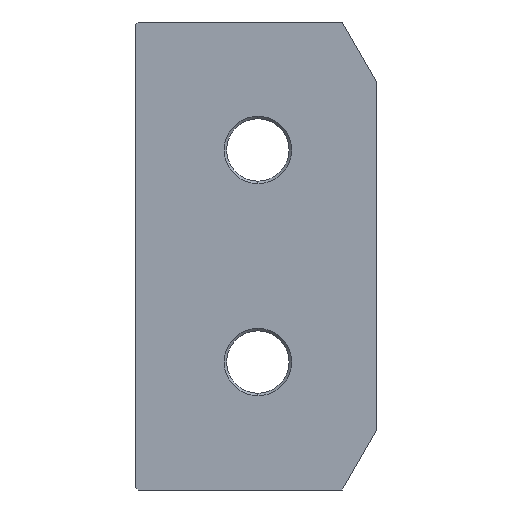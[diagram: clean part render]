
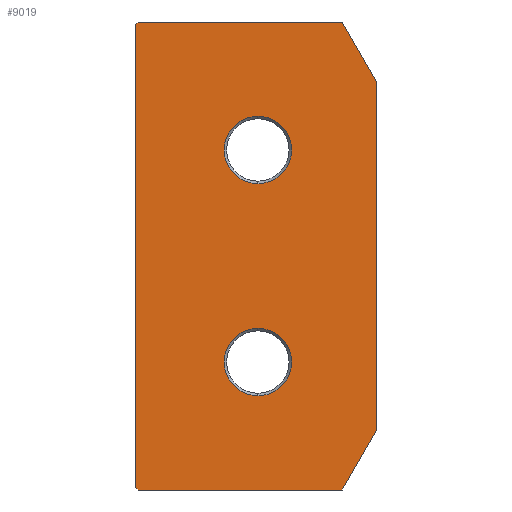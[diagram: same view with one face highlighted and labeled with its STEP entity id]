
A CAD part, front view. The second image highlights one B-rep face of the part: STEP entity #9019.
In plain terms, the highlighted planar face has unit normal (0, -1, 0).
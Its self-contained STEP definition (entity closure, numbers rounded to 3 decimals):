
#185 = PLANE ( 'NONE',  #4678 ) ;
#207 = CARTESIAN_POINT ( 'NONE',  ( 0., 0., 37.5 ) ) ;
#243 = ORIENTED_EDGE ( 'NONE', *, *, #3386, .T. ) ;
#257 = ORIENTED_EDGE ( 'NONE', *, *, #7228, .T. ) ;
#446 = CARTESIAN_POINT ( 'NONE',  ( 19.6, 0., 22.4 ) ) ;
#458 = EDGE_CURVE ( 'NONE', #2231, #8779, #3526, .T. ) ;
#645 = VERTEX_POINT ( 'NONE', #7879 ) ;
#813 = VERTEX_POINT ( 'NONE', #5045 ) ;
#910 = DIRECTION ( 'NONE',  ( 0.707, 0., -0.707 ) ) ;
#919 = ORIENTED_EDGE ( 'NONE', *, *, #8239, .T. ) ;
#947 = EDGE_CURVE ( 'NONE', #6887, #645, #7584, .T. ) ;
#1007 = ORIENTED_EDGE ( 'NONE', *, *, #1945, .T. ) ;
#1108 = DIRECTION ( 'NONE',  ( 1., 0., 0. ) ) ;
#1169 = EDGE_LOOP ( 'NONE', ( #1345, #243 ) ) ;
#1345 = ORIENTED_EDGE ( 'NONE', *, *, #2753, .T. ) ;
#1385 = CARTESIAN_POINT ( 'NONE',  ( 19.6, 0., 17. ) ) ;
#1527 = LINE ( 'NONE', #3033, #5630 ) ;
#1567 = DIRECTION ( 'NONE',  ( 0., 1., 0. ) ) ;
#1576 = DIRECTION ( 'NONE',  ( 0., 0., 1. ) ) ;
#1655 = FACE_BOUND ( 'NONE', #2107, .T. ) ;
#1792 = EDGE_LOOP ( 'NONE', ( #3913, #8311, #919, #8913, #6712, #5421, #8343, #2806 ) ) ;
#1897 = DIRECTION ( 'NONE',  ( 0., 0., 1. ) ) ;
#1906 = CARTESIAN_POINT ( 'NONE',  ( -37.3, 0., -0.2 ) ) ;
#1929 = VECTOR ( 'NONE', #6195, 1000. ) ;
#1945 = EDGE_CURVE ( 'NONE', #5951, #2197, #9002, .T. ) ;
#2107 = EDGE_LOOP ( 'NONE', ( #1007, #257 ) ) ;
#2197 = VERTEX_POINT ( 'NONE', #446 ) ;
#2231 = VERTEX_POINT ( 'NONE', #7113 ) ;
#2280 = VERTEX_POINT ( 'NONE', #5106 ) ;
#2728 = DIRECTION ( 'NONE',  ( 0., 1., 0. ) ) ;
#2749 = AXIS2_PLACEMENT_3D ( 'NONE', #1385, #1567, #9649 ) ;
#2751 = CARTESIAN_POINT ( 'NONE',  ( 0.4, 0., 37.5 ) ) ;
#2753 = EDGE_CURVE ( 'NONE', #813, #2280, #9545, .T. ) ;
#2806 = ORIENTED_EDGE ( 'NONE', *, *, #5617, .T. ) ;
#2993 = CARTESIAN_POINT ( 'NONE',  ( 19.6, 0., -17. ) ) ;
#3033 = CARTESIAN_POINT ( 'NONE',  ( 38.6, 0., -37.5 ) ) ;
#3035 = LINE ( 'NONE', #5496, #1929 ) ;
#3133 = LINE ( 'NONE', #1906, #3748 ) ;
#3166 = FACE_OUTER_BOUND ( 'NONE', #1792, .T. ) ;
#3386 = EDGE_CURVE ( 'NONE', #2280, #813, #4422, .T. ) ;
#3513 = CARTESIAN_POINT ( 'NONE',  ( 19.6, 0., 17. ) ) ;
#3526 = LINE ( 'NONE', #6537, #4526 ) ;
#3580 = VERTEX_POINT ( 'NONE', #6749 ) ;
#3630 = AXIS2_PLACEMENT_3D ( 'NONE', #6368, #9326, #6998 ) ;
#3748 = VECTOR ( 'NONE', #7660, 1000. ) ;
#3913 = ORIENTED_EDGE ( 'NONE', *, *, #8549, .F. ) ;
#4378 = VERTEX_POINT ( 'NONE', #2751 ) ;
#4422 = CIRCLE ( 'NONE', #3630, 5.4 ) ;
#4510 = DIRECTION ( 'NONE',  ( 0., 0., 1. ) ) ;
#4526 = VECTOR ( 'NONE', #9101, 1000. ) ;
#4678 = AXIS2_PLACEMENT_3D ( 'NONE', #6185, #5662, #8639 ) ;
#4700 = FACE_BOUND ( 'NONE', #1169, .T. ) ;
#4978 = VERTEX_POINT ( 'NONE', #8950 ) ;
#5045 = CARTESIAN_POINT ( 'NONE',  ( 19.6, 0., -22.4 ) ) ;
#5066 = VECTOR ( 'NONE', #910, 1000. ) ;
#5106 = CARTESIAN_POINT ( 'NONE',  ( 19.6, 0., -11.6 ) ) ;
#5191 = AXIS2_PLACEMENT_3D ( 'NONE', #2993, #9067, #1576 ) ;
#5206 = CIRCLE ( 'NONE', #6773, 5.4 ) ;
#5421 = ORIENTED_EDGE ( 'NONE', *, *, #458, .T. ) ;
#5496 = CARTESIAN_POINT ( 'NONE',  ( 0., 0., -37.5 ) ) ;
#5617 = EDGE_CURVE ( 'NONE', #4378, #9195, #3133, .T. ) ;
#5630 = VECTOR ( 'NONE', #4510, 1000. ) ;
#5649 = CARTESIAN_POINT ( 'NONE',  ( 0., 0., 37.1 ) ) ;
#5662 = DIRECTION ( 'NONE',  ( 0., -1., 0. ) ) ;
#5951 = VERTEX_POINT ( 'NONE', #8301 ) ;
#6185 = CARTESIAN_POINT ( 'NONE',  ( 0., 0., -37.5 ) ) ;
#6195 = DIRECTION ( 'NONE',  ( 0., 0., 1. ) ) ;
#6200 = DIRECTION ( 'NONE',  ( 1., 0., 0. ) ) ;
#6247 = EDGE_CURVE ( 'NONE', #3580, #4978, #6885, .T. ) ;
#6368 = CARTESIAN_POINT ( 'NONE',  ( 19.6, 0., -17. ) ) ;
#6477 = VECTOR ( 'NONE', #9684, 1000. ) ;
#6537 = CARTESIAN_POINT ( 'NONE',  ( 33.115, 0., 37.5 ) ) ;
#6647 = VECTOR ( 'NONE', #1108, 1000. ) ;
#6712 = ORIENTED_EDGE ( 'NONE', *, *, #9256, .T. ) ;
#6722 = CARTESIAN_POINT ( 'NONE',  ( 33.115, 0., -37.5 ) ) ;
#6749 = CARTESIAN_POINT ( 'NONE',  ( 0., 0., -37.1 ) ) ;
#6773 = AXIS2_PLACEMENT_3D ( 'NONE', #3513, #2728, #1897 ) ;
#6885 = LINE ( 'NONE', #7756, #5066 ) ;
#6887 = VERTEX_POINT ( 'NONE', #9540 ) ;
#6998 = DIRECTION ( 'NONE',  ( 0., 0., 1. ) ) ;
#7088 = CARTESIAN_POINT ( 'NONE',  ( 0., 0., -37.5 ) ) ;
#7113 = CARTESIAN_POINT ( 'NONE',  ( 38.6, 0., 28. ) ) ;
#7210 = CARTESIAN_POINT ( 'NONE',  ( 33.115, 0., 37.5 ) ) ;
#7228 = EDGE_CURVE ( 'NONE', #2197, #5951, #5206, .T. ) ;
#7584 = LINE ( 'NONE', #6722, #6477 ) ;
#7660 = DIRECTION ( 'NONE',  ( -0.707, 0., -0.707 ) ) ;
#7756 = CARTESIAN_POINT ( 'NONE',  ( 0.2, 0., -37.3 ) ) ;
#7805 = VECTOR ( 'NONE', #6200, 1000. ) ;
#7810 = LINE ( 'NONE', #7088, #6647 ) ;
#7879 = CARTESIAN_POINT ( 'NONE',  ( 38.6, 0., -28. ) ) ;
#8239 = EDGE_CURVE ( 'NONE', #4978, #6887, #7810, .T. ) ;
#8301 = CARTESIAN_POINT ( 'NONE',  ( 19.6, 0., 11.6 ) ) ;
#8311 = ORIENTED_EDGE ( 'NONE', *, *, #6247, .T. ) ;
#8343 = ORIENTED_EDGE ( 'NONE', *, *, #9153, .F. ) ;
#8386 = LINE ( 'NONE', #207, #7805 ) ;
#8549 = EDGE_CURVE ( 'NONE', #3580, #9195, #3035, .T. ) ;
#8639 = DIRECTION ( 'NONE',  ( 0., 0., -1. ) ) ;
#8779 = VERTEX_POINT ( 'NONE', #7210 ) ;
#8913 = ORIENTED_EDGE ( 'NONE', *, *, #947, .T. ) ;
#8950 = CARTESIAN_POINT ( 'NONE',  ( 0.4, 0., -37.5 ) ) ;
#9002 = CIRCLE ( 'NONE', #2749, 5.4 ) ;
#9019 = ADVANCED_FACE ( 'NONE', ( #4700, #1655, #3166 ), #185, .T. ) ;
#9067 = DIRECTION ( 'NONE',  ( 0., 1., 0. ) ) ;
#9101 = DIRECTION ( 'NONE',  ( -0.5, 0., 0.866 ) ) ;
#9153 = EDGE_CURVE ( 'NONE', #4378, #8779, #8386, .T. ) ;
#9195 = VERTEX_POINT ( 'NONE', #5649 ) ;
#9256 = EDGE_CURVE ( 'NONE', #645, #2231, #1527, .T. ) ;
#9326 = DIRECTION ( 'NONE',  ( 0., 1., 0. ) ) ;
#9540 = CARTESIAN_POINT ( 'NONE',  ( 33.115, 0., -37.5 ) ) ;
#9545 = CIRCLE ( 'NONE', #5191, 5.4 ) ;
#9649 = DIRECTION ( 'NONE',  ( 0., 0., 1. ) ) ;
#9684 = DIRECTION ( 'NONE',  ( 0.5, 0., 0.866 ) ) ;
